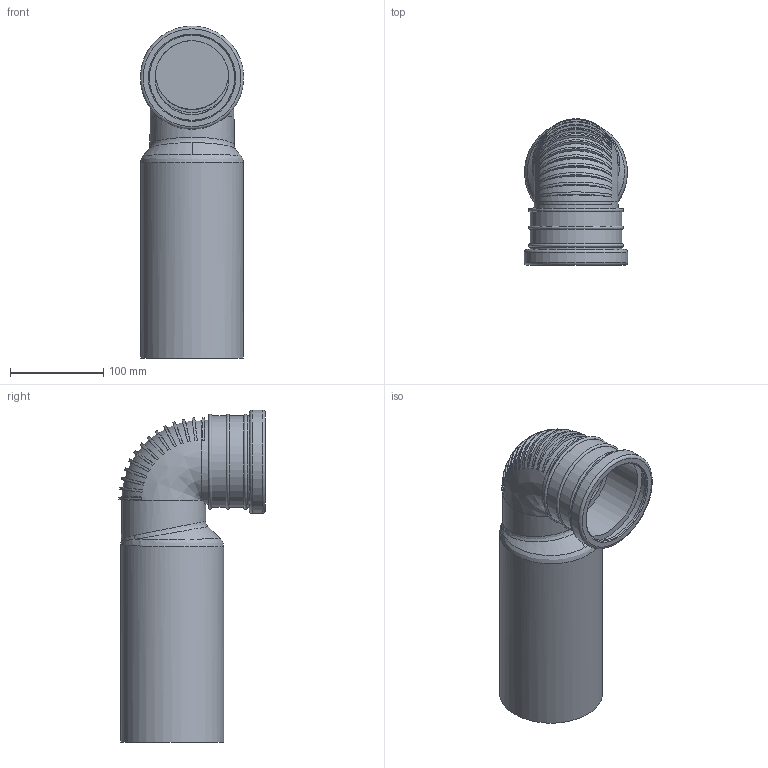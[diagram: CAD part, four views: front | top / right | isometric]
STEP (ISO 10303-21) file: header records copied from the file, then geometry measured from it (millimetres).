
FILE_DESCRIPTION(/* description */ (''),/* implementation_level */ '2;1');
FILE_NAME(/* name */ 'H:\Geberit-Teile\Export\310.883.14.0\stp\310883.stp',/* time_stamp */ '2015-04-15T11:26:24+02:00',/* author */ ('seihe2'),/* organization */ (''),/* preprocessor_version */ 'ST-DEVELOPER v15.2',/* originating_system */ 'Autodesk Inventor 2014',/* authorisation */ '');
FILE_SCHEMA (('AUTOMOTIVE_DESIGN { 1 0 10303 214 3 1 1 }'));
Length unit declared in the file: millimetre
Products named in the file (1): 310883
Bounding box: 111 x 157.45 x 356.5 mm (x, y, z)
Volume: 1270625.7 mm3; surface area: 247260.4 mm2
Topology: 1 solids, 1 shells, 101 faces, 258 edges, 169 vertices
Faces by surface type: cylinder 43, cone 33, plane 14, bspline 6, torus 5
Full cylindrical faces by diameter (mm): 79.38 x1, 90.38 x2, 91.45 x1, 91.7 x1, 97.9 x1, 98.2 x3, 104.3 x1, 110.4 x1, 111 x1
Entity records: 4080 total; most frequent: CARTESIAN_POINT 1740, ORIENTED_EDGE 464, DIRECTION 399, EDGE_CURVE 232, AXIS2_PLACEMENT_3D 196, VERTEX_POINT 164, EDGE_LOOP 158, B_SPLINE_CURVE_WITH_KNOTS 121
